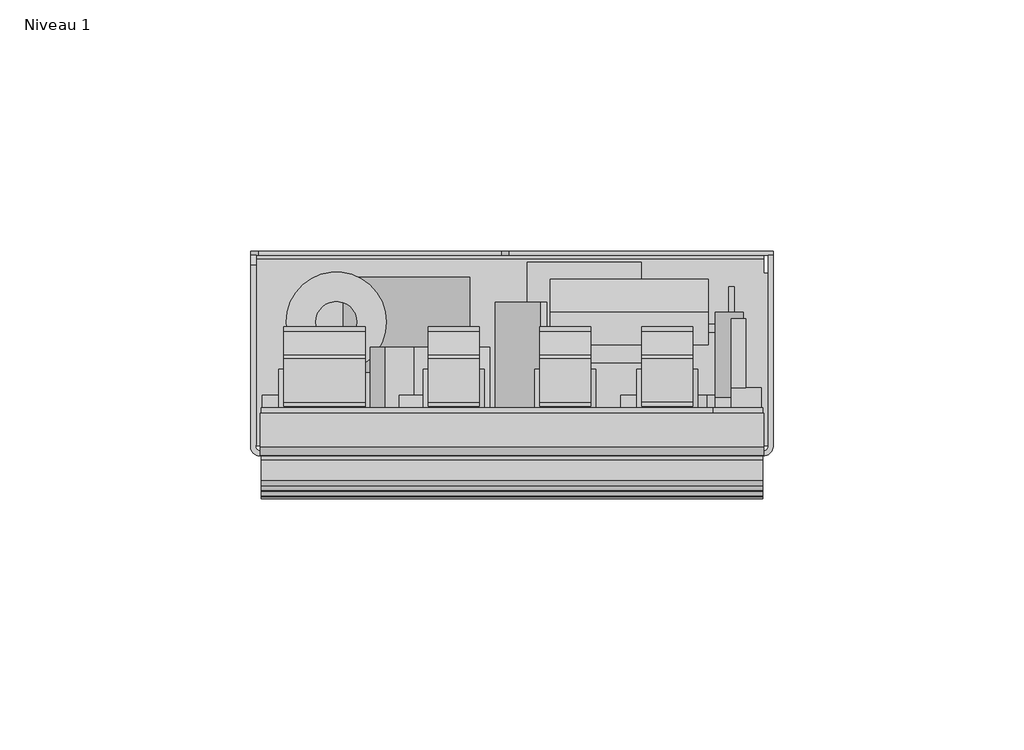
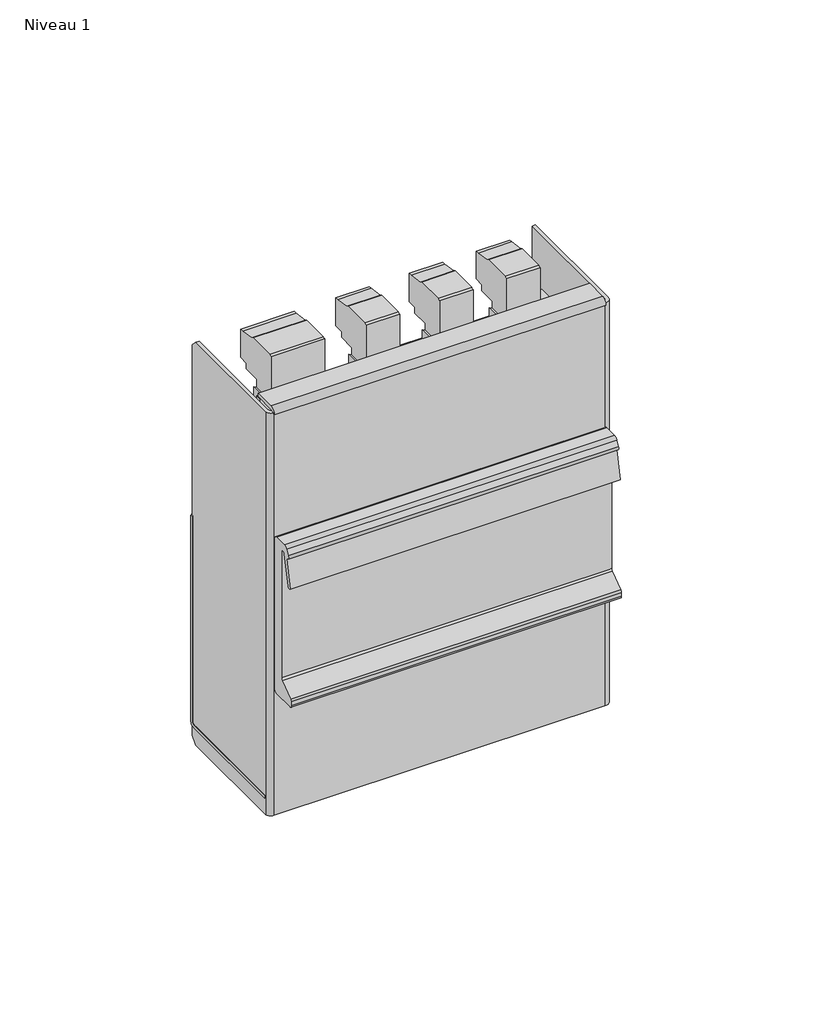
# One storey: 1 proxy.
"""IFC4 building model written with IfcOpenShell, lengths in millimetres."""

from ifc_helpers import new_model, si_unit, origin, place, context, project, spatial, transform, mapped, element, save
from components import electrical_equipment_25405dab

model = new_model("IFC4")

# Units and contexts
model_context = context("Model", 3, world=origin())
ifc_project = project(units=[si_unit("LENGTHUNIT", "METRE", prefix="MILLI")], contexts=[model_context])

# Site, building, storey
site = spatial("IfcSite", under=ifc_project)
building = spatial("IfcBuilding", under=site)
storey = spatial("IfcBuildingStorey", under=building, Name="Niveau 1", Elevation=0.0)

# Proxy
placement = place(None, origin())
electrical_equipment_shape = electrical_equipment_25405dab(model_context)
element("IfcBuildingElementProxy", 1, Name="FITIN 24V 3A CG1 : FITIN 24V 3A CG1", ObjectType="FITIN 24V 3A CG1 : FITIN 24V 3A CG1", at=placement, inside=storey, context=model_context, shape_type="MappedRepresentation", body=[
    mapped(electrical_equipment_shape, transform((-6906.2078888, 2465.0583207, 0.0), x_axis=(1.0, 0.0, 0.0), y_axis=(0.0, 1.0, 0.0), z_axis=(0.0, 0.0, 1.0))),
])

save(model, "model.ifc")
